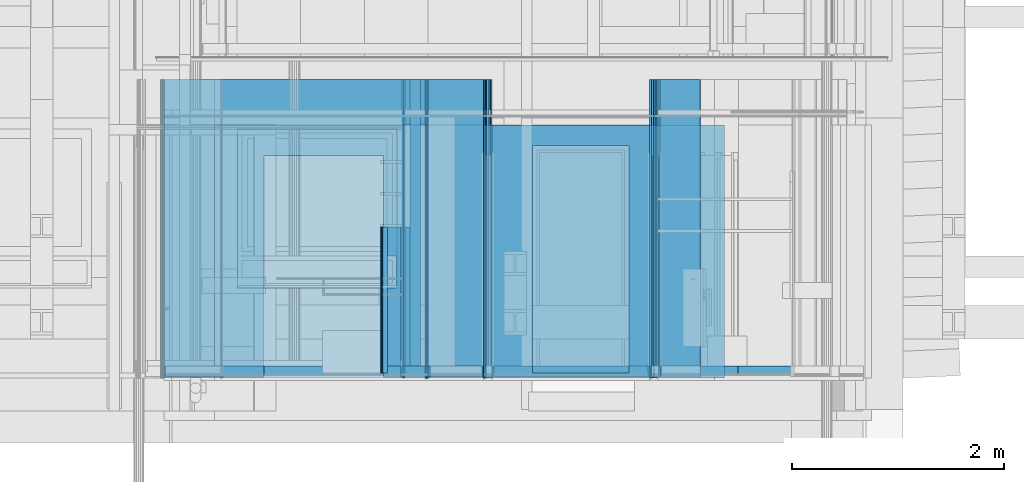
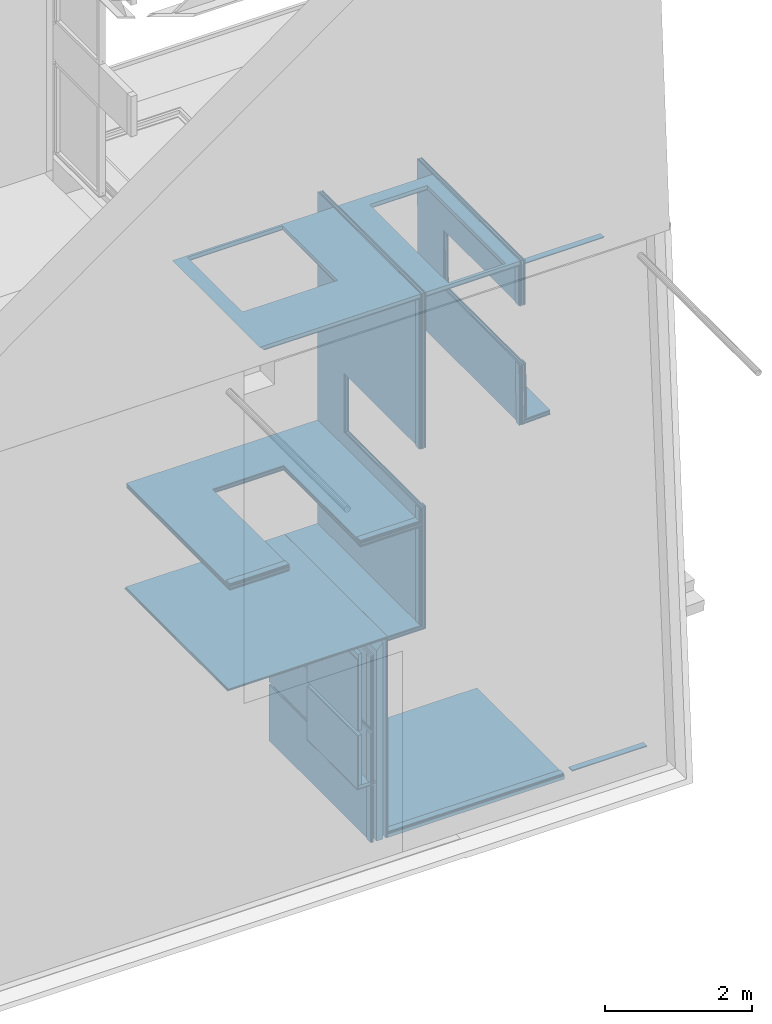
# One storey, part 128 of 583: 49 building element parts, 6 openings, 15 elements without a shape of their own.
"""IFC2X3 building model written with IfcOpenShell, lengths in metres."""

from ifc_helpers import new_model, entity, si_unit, converted_unit, derived_unit, money_unit, direction, frame, frame_2d, origin_with_axes, place, context, subcontext, project, spatial, polyline, rectangle, outline, composite_profile, extrude, material, type_object, element, aggregate, save


model = new_model("IFC2X3")

# Units and contexts
model_context = context("Model", 3, precision=1e-05, world=origin_with_axes(), true_north=direction((0.0, 1.0)))
body_context = subcontext(model_context, "Body", "Model", "MODEL_VIEW", scale=1.0)
ifc_project = project(units=[si_unit("LENGTHUNIT", "METRE"), si_unit("AREAUNIT", "SQUARE_METRE"), si_unit("VOLUMEUNIT", "CUBIC_METRE"), si_unit("ABSORBEDDOSEUNIT", "GRAY"), si_unit("AMOUNTOFSUBSTANCEUNIT", "MOLE"), si_unit("DOSEEQUIVALENTUNIT", "SIEVERT"), si_unit("ELECTRICCAPACITANCEUNIT", "FARAD"), si_unit("ELECTRICCHARGEUNIT", "COULOMB"), si_unit("ELECTRICCONDUCTANCEUNIT", "SIEMENS"), si_unit("ELECTRICCURRENTUNIT", "AMPERE"), si_unit("ELECTRICRESISTANCEUNIT", "OHM"), si_unit("ELECTRICVOLTAGEUNIT", "VOLT"), si_unit("ENERGYUNIT", "JOULE"), si_unit("FORCEUNIT", "NEWTON"), si_unit("FREQUENCYUNIT", "HERTZ"), si_unit("ILLUMINANCEUNIT", "LUX"), si_unit("INDUCTANCEUNIT", "HENRY"), si_unit("LUMINOUSFLUXUNIT", "LUMEN"), si_unit("LUMINOUSINTENSITYUNIT", "CANDELA"), si_unit("MAGNETICFLUXDENSITYUNIT", "TESLA"), si_unit("MAGNETICFLUXUNIT", "WEBER"), si_unit("MASSUNIT", "GRAM"), converted_unit("PLANEANGLEUNIT", "degree", entity("IfcReal", 0.0174532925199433), si_unit("PLANEANGLEUNIT", "RADIAN"), dimensions=[0, 0, 0, 0, 0, 0, 0]), si_unit("POWERUNIT", "WATT"), si_unit("PRESSUREUNIT", "PASCAL"), si_unit("RADIOACTIVITYUNIT", "BECQUEREL"), si_unit("SOLIDANGLEUNIT", "STERADIAN"), si_unit("THERMODYNAMICTEMPERATUREUNIT", "KELVIN"), si_unit("TIMEUNIT", "SECOND"), derived_unit("ACCELERATIONUNIT", [(si_unit("LENGTHUNIT", "METRE"), 1), (si_unit("TIMEUNIT", "SECOND"), -2)]), derived_unit("ANGULARVELOCITYUNIT", [(converted_unit("PLANEANGLEUNIT", "degree", entity("IfcReal", 0.0174532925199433), si_unit("PLANEANGLEUNIT", "RADIAN"), dimensions=[0, 0, 0, 0, 0, 0, 0]), 1), (si_unit("TIMEUNIT", "SECOND"), -1)]), derived_unit("CURVATUREUNIT", [(converted_unit("PLANEANGLEUNIT", "degree", entity("IfcReal", 0.0174532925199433), si_unit("PLANEANGLEUNIT", "RADIAN"), dimensions=[0, 0, 0, 0, 0, 0, 0]), 1), (si_unit("LENGTHUNIT", "METRE"), -1)]), derived_unit("DYNAMICVISCOSITYUNIT", [(si_unit("PRESSUREUNIT", "PASCAL"), 1), (si_unit("TIMEUNIT", "SECOND"), 1)]), derived_unit("HEATFLUXDENSITYUNIT", [(si_unit("POWERUNIT", "WATT"), 1), (si_unit("LENGTHUNIT", "METRE"), -2)]), derived_unit("HEATINGVALUEUNIT", [(si_unit("ENERGYUNIT", "JOULE"), 1), (si_unit("MASSUNIT", "GRAM"), -1)]), derived_unit("INTEGERCOUNTRATEUNIT", [(si_unit("TIMEUNIT", "SECOND"), -1)]), derived_unit("IONCONCENTRATIONUNIT", [(si_unit("MASSUNIT", "GRAM"), 1), (si_unit("VOLUMEUNIT", "CUBIC_METRE"), -1)]), derived_unit("ISOTHERMALMOISTURECAPACITYUNIT", [(si_unit("VOLUMEUNIT", "CUBIC_METRE"), 1), (si_unit("MASSUNIT", "GRAM"), -1)]), derived_unit("KINEMATICVISCOSITYUNIT", [(si_unit("AREAUNIT", "SQUARE_METRE"), 1), (si_unit("TIMEUNIT", "SECOND"), -1)]), derived_unit("LINEARFORCEUNIT", [(si_unit("FORCEUNIT", "NEWTON"), 1), (si_unit("LENGTHUNIT", "METRE"), -1)]), derived_unit("LINEARMOMENTUNIT", [(si_unit("FORCEUNIT", "NEWTON"), 1), (si_unit("LENGTHUNIT", "METRE"), -1)]), derived_unit("LINEARSTIFFNESSUNIT", [(si_unit("FORCEUNIT", "NEWTON"), 1), (si_unit("LENGTHUNIT", "METRE"), -1)]), derived_unit("LINEARVELOCITYUNIT", [(si_unit("LENGTHUNIT", "METRE"), 1), (si_unit("TIMEUNIT", "SECOND"), -1)]), derived_unit("LUMINOUSINTENSITYDISTRIBUTIONUNIT", [(si_unit("LUMINOUSINTENSITYUNIT", "CANDELA"), 1), (si_unit("LUMINOUSFLUXUNIT", "LUMEN"), -1)]), derived_unit("MASSDENSITYUNIT", [(si_unit("MASSUNIT", "GRAM"), 1), (si_unit("VOLUMEUNIT", "CUBIC_METRE"), -1)]), derived_unit("MASSFLOWRATEUNIT", [(si_unit("MASSUNIT", "GRAM"), 1), (si_unit("TIMEUNIT", "SECOND"), -1)]), derived_unit("MASSPERLENGTHUNIT", [(si_unit("MASSUNIT", "GRAM"), 1), (si_unit("LENGTHUNIT", "METRE"), -1)]), derived_unit("MODULUSOFELASTICITYUNIT", [(si_unit("FORCEUNIT", "NEWTON"), 1), (si_unit("AREAUNIT", "SQUARE_METRE"), -1)]), derived_unit("MODULUSOFLINEARSUBGRADEREACTIONUNIT", [(si_unit("FORCEUNIT", "NEWTON"), 1), (si_unit("LENGTHUNIT", "METRE"), -2)]), derived_unit("MODULUSOFROTATIONALSUBGRADEREACTIONUNIT", [(si_unit("FORCEUNIT", "NEWTON"), 1), (si_unit("LENGTHUNIT", "METRE"), 1)]), derived_unit("MODULUSOFSUBGRADEREACTIONUNIT", [(si_unit("FORCEUNIT", "NEWTON"), 1), (si_unit("VOLUMEUNIT", "CUBIC_METRE"), -1)]), derived_unit("MOISTUREDIFFUSIVITYUNIT", [(si_unit("VOLUMEUNIT", "CUBIC_METRE"), 1), (si_unit("TIMEUNIT", "SECOND"), -1)]), derived_unit("MOLECULARWEIGHTUNIT", [(si_unit("MASSUNIT", "GRAM"), 1), (si_unit("AMOUNTOFSUBSTANCEUNIT", "MOLE"), -1)]), derived_unit("PLANARFORCEUNIT", [(si_unit("FORCEUNIT", "NEWTON"), 1), (si_unit("LENGTHUNIT", "METRE"), -2)]), derived_unit("ROTATIONALFREQUENCYUNIT", [(si_unit("TIMEUNIT", "SECOND"), -1)]), derived_unit("ROTATIONALMASSUNIT", [(si_unit("MASSUNIT", "GRAM"), 1), (si_unit("LENGTHUNIT", "METRE"), 2)]), derived_unit("ROTATIONALSTIFFNESSUNIT", [(si_unit("FORCEUNIT", "NEWTON"), 1), (si_unit("LENGTHUNIT", "METRE"), 1), (converted_unit("PLANEANGLEUNIT", "degree", entity("IfcReal", 0.0174532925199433), si_unit("PLANEANGLEUNIT", "RADIAN"), dimensions=[0, 0, 0, 0, 0, 0, 0]), -1)]), derived_unit("SECTIONAREAINTEGRALUNIT", [(si_unit("LENGTHUNIT", "METRE"), 5)]), derived_unit("SECTIONMODULUSUNIT", [(si_unit("LENGTHUNIT", "METRE"), 3)]), derived_unit("SHEARMODULUSUNIT", [(si_unit("FORCEUNIT", "NEWTON"), 1), (si_unit("AREAUNIT", "SQUARE_METRE"), -1)]), derived_unit("SOUNDPOWERUNIT", [(si_unit("ENERGYUNIT", "JOULE"), 1), (si_unit("TIMEUNIT", "SECOND"), -1)]), derived_unit("SPECIFICHEATCAPACITYUNIT", [(si_unit("FORCEUNIT", "NEWTON"), 1), (si_unit("MASSUNIT", "GRAM"), -1), (si_unit("THERMODYNAMICTEMPERATUREUNIT", "KELVIN"), -1)]), derived_unit("TEMPERATUREGRADIENTUNIT", [(si_unit("THERMODYNAMICTEMPERATUREUNIT", "KELVIN"), 1), (si_unit("LENGTHUNIT", "METRE"), -1)]), derived_unit("THERMALADMITTANCEUNIT", [(si_unit("POWERUNIT", "WATT"), 1), (si_unit("AREAUNIT", "SQUARE_METRE"), -1), (si_unit("THERMODYNAMICTEMPERATUREUNIT", "KELVIN"), -1)]), derived_unit("THERMALCONDUCTANCEUNIT", [(si_unit("POWERUNIT", "WATT"), 1), (si_unit("LENGTHUNIT", "METRE"), -1), (si_unit("THERMODYNAMICTEMPERATUREUNIT", "KELVIN"), -1)]), derived_unit("THERMALEXPANSIONCOEFFICIENTUNIT", [(si_unit("THERMODYNAMICTEMPERATUREUNIT", "KELVIN"), -1)]), derived_unit("THERMALRESISTANCEUNIT", [(si_unit("AREAUNIT", "SQUARE_METRE"), 1), (si_unit("POWERUNIT", "WATT"), -1)]), derived_unit("THERMALTRANSMITTANCEUNIT", [(si_unit("POWERUNIT", "WATT"), 1), (si_unit("AREAUNIT", "SQUARE_METRE"), -1), (si_unit("THERMODYNAMICTEMPERATUREUNIT", "KELVIN"), -1)]), derived_unit("TORQUEUNIT", [(si_unit("FORCEUNIT", "NEWTON"), 1), (si_unit("LENGTHUNIT", "METRE"), 1)]), derived_unit("VAPORPERMEABILITYUNIT", [(si_unit("MASSUNIT", "GRAM"), 1), (si_unit("TIMEUNIT", "SECOND"), -1)]), derived_unit("VOLUMETRICFLOWRATEUNIT", [(si_unit("VOLUMEUNIT", "CUBIC_METRE"), 1), (si_unit("TIMEUNIT", "SECOND"), -1)]), derived_unit("WARPINGCONSTANTUNIT", [(si_unit("LENGTHUNIT", "METRE"), 6)]), derived_unit("WARPINGMOMENTUNIT", [(si_unit("FORCEUNIT", "NEWTON"), 1), (si_unit("LENGTHUNIT", "METRE"), 2)]), money_unit("GBP")], contexts=[model_context])

# Site, building, storey
site_placement = place(None, origin_with_axes())
site = spatial("IfcSite", under=ifc_project, at=site_placement, Name="Site", CompositionType="ELEMENT")
building_placement = place(site_placement, origin_with_axes())
building = spatial("IfcBuilding", under=site, at=building_placement, Name="Building01", CompositionType="ELEMENT")
storey_placement = place(building_placement, frame((0.0, 0.0, 20.78), z_axis=(0.0, 0.0, 1.0), x_axis=(1.0, 0.0, 0.0)))
storey = spatial("IfcBuildingStorey", under=building, at=storey_placement, Name="RL", CompositionType="ELEMENT", Elevation=20.78)

# Wall, building element parts
wall_type_1 = type_object("IfcWallType", Name="SHE_A-Walls_Type01a_Partywall_250mm_twin", PredefinedType="NOTDEFINED")
wall_1_placement = place(storey_placement, frame((16.968647, 0.148, -17.324475), z_axis=(0.0, 1.0, 0.0), x_axis=(-1.0, 0.0, 0.0)))
wall_1 = element("IfcWall", 1, at=wall_1_placement, inside=storey, type_object=wall_type_1, Name="1A", ObjectType="SHE_A-Walls_Type01a_Partywall_250mm_twin")
ifc_material_1 = material(Name="A_BSUK_WallInternal_Finishes_Plasterboard")
placement_1 = place(wall_1_placement, origin_with_axes())
building_element_part_1 = element("IfcBuildingElementPart", 2, at=placement_1, material=ifc_material_1, Name="3", context=body_context, shape_type="SweptSolid", body=[
    extrude(outline(polyline([(2.333647, 0.175), (-0.175, 0.175), (-0.16, 0.16), (2.333647, 0.16), (2.333647, 0.175)])), origin_with_axes(), (0.0, 0.0, 1.0), 2.812),
])
building_element_part_2 = element("IfcBuildingElementPart", 3, at=placement_1, material=ifc_material_1, Name="4", context=body_context, shape_type="SweptSolid", body=[
    extrude(outline(polyline([(2.348647, 0.16), (-0.16, 0.16), (-0.145, 0.145), (2.348647, 0.145), (2.348647, 0.16)])), origin_with_axes(), (0.0, 0.0, 1.0), 2.812),
])
aggregate(wall_1, [building_element_part_1, building_element_part_2])

wall_2_placement = place(storey_placement, frame((16.968647, 0.148, -20.499146), z_axis=(0.0, 1.0, 0.0), x_axis=(0.0, 0.0, 1.0)))
wall_2 = element("IfcWall", 4, at=wall_2_placement, inside=storey, type_object=wall_type_1, Name="1A", ObjectType="SHE_A-Walls_Type01a_Partywall_250mm_twin")
ifc_material_2 = material(Name="A_BSUK_Insulation")
placement_2 = place(wall_2_placement, origin_with_axes())
building_element_part_3 = element("IfcBuildingElementPart", 5, at=placement_2, material=ifc_material_2, Name="1", context=body_context, shape_type="SweptSolid", body=[
    extrude(outline(polyline([(3.274671, 0.1), (4e-06, 0.1), (0.0, 0.0), (3.174671, 0.0), (3.274671, 0.1)])), origin_with_axes(), (0.0, 0.0, 1.0), 2.812),
])
ifc_material_3 = material(Name="A_BSUK_Walls_Timber")
building_element_part_4 = element("IfcBuildingElementPart", 6, at=placement_2, material=ifc_material_3, Name="2", context=body_context, shape_type="SweptSolid", body=[
    extrude(rectangle(XDim=3.182664, YDim=0.015, at=frame_2d((1.663339, 0.1825), x_axis=(-1.0, 0.0))), frame((0.0, 0.0, 0.015), z_axis=(0.0, 0.0, 1.0), x_axis=(1.0, 0.0, 0.0)), (0.0, 0.0, 1.0), 0.1),
])
building_element_part_5 = element("IfcBuildingElementPart", 7, at=placement_2, material=ifc_material_1, Name="3", context=body_context, shape_type="SweptSolid", body=[
    extrude(outline(polyline([(3.349671, 0.175), (7e-06, 0.175), (6e-06, 0.16), (3.334671, 0.16), (3.349671, 0.175)])), origin_with_axes(), (0.0, 0.0, 1.0), 2.812),
])
building_element_part_6 = element("IfcBuildingElementPart", 8, at=placement_2, material=ifc_material_1, Name="4", context=body_context, shape_type="SweptSolid", body=[
    extrude(outline(polyline([(3.334671, 0.16), (6e-06, 0.16), (5e-06, 0.145), (3.319671, 0.145), (3.334671, 0.16)])), origin_with_axes(), (0.0, 0.0, 1.0), 2.812),
])
building_element_part_7 = element("IfcBuildingElementPart", 9, at=placement_2, material=ifc_material_1, Name="5", context=body_context, shape_type="SweptSolid", body=[
    extrude(composite_profile([outline(polyline([(1.871671, -0.06), (3.114671, -0.06), (3.129671, -0.045), (1.871671, -0.045), (1.871671, -0.06)])), outline(polyline([(0.934671, -0.045), (-2e-06, -0.045), (-2e-06, -0.06), (0.934671, -0.06), (0.934671, -0.045)])), rectangle(XDim=0.861999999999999, YDim=0.015, at=frame_2d((1.415671, -0.0525), x_axis=(1.0, 0.0)))]), origin_with_axes(), (0.0, 0.0, 1.0), 2.812),
])
building_element_part_8 = element("IfcBuildingElementPart", 10, at=placement_2, material=ifc_material_1, Name="6", context=body_context, shape_type="SweptSolid", body=[
    extrude(composite_profile([outline(polyline([(1.899671, -0.075), (3.099671, -0.075), (3.114671, -0.06), (1.884671, -0.06), (1.899671, -0.075)])), outline(polyline([(0.934671, -0.06), (-2e-06, -0.06), (-3e-06, -0.075), (0.934671, -0.075), (0.934671, -0.06)])), outline(polyline([(0.984671, -0.075), (1.819671, -0.075), (1.834671, -0.06), (0.984671, -0.06), (0.984671, -0.075)]))]), origin_with_axes(), (0.0, 0.0, 1.0), 2.812),
])
building_element_part_9 = element("IfcBuildingElementPart", 11, at=placement_2, material=ifc_material_3, Name="7", context=body_context, shape_type="SweptSolid", body=[
    extrude(composite_profile([outline(polyline([(1.914671, -0.09), (3.084671, -0.09), (3.099671, -0.075), (1.899671, -0.075), (1.914671, -0.09)])), outline(polyline([(0.934671, -0.075), (-3e-06, -0.075), (-3e-06, -0.09), (0.934671, -0.09), (0.934671, -0.075)])), outline(polyline([(0.984671, -0.09), (1.804671, -0.09), (1.819671, -0.075), (0.984671, -0.075), (0.984671, -0.09)]))]), frame((0.0, 0.0, 0.015), z_axis=(0.0, 0.0, 1.0), x_axis=(1.0, 0.0, 0.0)), (0.0, 0.0, 1.0), 0.1),
])
aggregate(wall_2, [building_element_part_3, building_element_part_4, building_element_part_5, building_element_part_6, building_element_part_7, building_element_part_8, building_element_part_9])

wall_type_2 = type_object("IfcWallType", Name="SHE_A-Walls_Type05c_PreWallShell_65mm", PredefinedType="NOTDEFINED")
wall_3_placement = place(storey_placement, frame((16.75865, 0.198, -18.599475), z_axis=(0.0, 1.0, 0.0), x_axis=(0.0, 0.0, 1.0)))
wall_3 = element("IfcWall", 12, at=wall_3_placement, inside=storey, type_object=wall_type_2, Name="5C", ObjectType="SHE_A-Walls_Type05c_PreWallShell_65mm")
ifc_material_4 = material(Name="A_BSUK_OpeningsClearance")
placement_3 = place(wall_3_placement, origin_with_axes())
building_element_part_10 = element("IfcBuildingElementPart", 13, at=placement_3, material=ifc_material_4, Name="1", context=body_context, shape_type="SweptSolid", body=[
    extrude(rectangle(XDim=1.275, YDim=0.05, at=frame_2d((0.6375, -0.025), x_axis=(-1.0, 0.0))), origin_with_axes(), (0.0, 0.0, 1.0), 1.375),
])
building_element_part_11 = element("IfcBuildingElementPart", 14, at=placement_3, material=ifc_material_3, Name="2", context=body_context, shape_type="SweptSolid", body=[
    extrude(rectangle(XDim=1.185, YDim=0.015, at=frame_2d((0.5925, -0.0575), x_axis=(-1.0, 0.0))), origin_with_axes(), (0.0, 0.0, 1.0), 1.375),
])
aggregate(wall_3, [building_element_part_10, building_element_part_11])

wall_4_placement = place(storey_placement, frame((16.75865, 0.198, -19.514475), z_axis=(0.0, 1.0, 0.0), x_axis=(0.0, 0.0, 1.0)))
wall_4 = element("IfcWall", 15, at=wall_4_placement, inside=storey, type_object=wall_type_2, Name="5C", ObjectType="SHE_A-Walls_Type05c_PreWallShell_65mm")
placement_4 = place(wall_4_placement, origin_with_axes())
building_element_part_12 = element("IfcBuildingElementPart", 16, at=placement_4, material=ifc_material_4, Name="1", context=body_context, shape_type="SweptSolid", body=[
    extrude(rectangle(XDim=0.835001, YDim=0.05, at=frame_2d((0.4175, -0.025), x_axis=(-1.0, 0.0))), origin_with_axes(), (0.0, 0.0, 1.0), 1.375),
])
building_element_part_13 = element("IfcBuildingElementPart", 17, at=placement_4, material=ifc_material_3, Name="2", context=body_context, shape_type="SweptSolid", body=[
    extrude(rectangle(XDim=0.885001, YDim=0.015, at=frame_2d((0.3925, -0.0575), x_axis=(-1.0, 0.0))), origin_with_axes(), (0.0, 0.0, 1.0), 1.375),
])
aggregate(wall_4, [building_element_part_12, building_element_part_13])

# Wall, opening, building element parts
wall_5_placement = place(storey_placement, frame((16.968647, 0.198, -19.514475), z_axis=(0.0, 1.0, 0.0), x_axis=(-1.0, 0.0, 0.0)))
wall_5 = element("IfcWall", 18, at=wall_5_placement, inside=storey, type_object=wall_type_2, Name="5C", ObjectType="SHE_A-Walls_Type05c_PreWallShell_65mm")
opening_1_placement = place(wall_5_placement, frame((0.125857, -0.985324, 0.8), z_axis=(0.0, 0.0, 1.0), x_axis=(1.0, 0.0, 0.0)))
element("IfcOpeningElement", 19, at=opening_1_placement, cuts=wall_5, Name="Opening", ObjectType="Opening", context=body_context, shape_type="SweptSolid", body=[
    extrude(rectangle(XDim=0.3, YDim=1.5, at=frame_2d((-0.75, 0.15), x_axis=(0.0, -1.0))), frame((0.0, 0.0, 0.0), z_axis=(0.0, 1.0, 0.0), x_axis=(-1.0, 0.0, 0.0)), (0.0, 0.0, 1.0), 2.580878),
])
placement_5 = place(wall_5_placement, origin_with_axes())
building_element_part_14 = element("IfcBuildingElementPart", 20, at=placement_5, material=ifc_material_4, Name="1", context=body_context, shape_type="SweptSolid", body=[
    extrude(rectangle(XDim=0.259998, YDim=0.05, at=frame_2d((0.129999, -0.025), x_axis=(-1.0, 0.0))), origin_with_axes(), (0.0, 0.0, 1.0), 1.375),
])
building_element_part_15 = element("IfcBuildingElementPart", 21, at=placement_5, material=ifc_material_3, Name="2", context=body_context, shape_type="SweptSolid", body=[
    extrude(rectangle(XDim=0.184998, YDim=0.015, at=frame_2d((0.182499, -0.0575), x_axis=(-1.0, 0.0))), origin_with_axes(), (0.0, 0.0, 1.0), 1.375),
])
aggregate(wall_5, [building_element_part_14, building_element_part_15])

# Wall, building element parts
wall_type_3 = type_object("IfcWallType", Name="SHE_A-Walls_Type05b_Partition_80mm", PredefinedType="NOTDEFINED")
wall_6_placement = place(storey_placement, frame((17.143647, 0.148, -17.176475), z_axis=(0.0, 1.0, 0.0), x_axis=(1.0, 0.0, 0.0)))
wall_6 = element("IfcWall", 22, at=wall_6_placement, inside=storey, type_object=wall_type_3, Name="5B", ObjectType="SHE_A-Walls_Type05b_Partition_80mm")
placement_6 = place(wall_6_placement, origin_with_axes())
building_element_part_16 = element("IfcBuildingElementPart", 23, at=placement_6, material=ifc_material_2, Name="1", context=body_context, shape_type="SweptSolid", body=[
    extrude(outline(polyline([(0.571924, 0.025), (0.0, 0.025), (0.0, 0.0), (0.546924, 0.0), (0.571924, 0.025)])), origin_with_axes(), (0.0, 0.0, 1.0), 2.812),
])
building_element_part_17 = element("IfcBuildingElementPart", 24, at=placement_6, material=ifc_material_1, Name="3", context=body_context, shape_type="SweptSolid", body=[
    extrude(outline(polyline([(0.599924, 0.053), (0.0, 0.053), (0.0, 0.038), (0.584924, 0.038), (0.599924, 0.053)])), origin_with_axes(), (0.0, 0.0, 1.0), 2.812),
])
building_element_part_18 = element("IfcBuildingElementPart", 25, at=placement_6, material=ifc_material_1, Name="4", context=body_context, shape_type="SweptSolid", body=[
    extrude(outline(polyline([(0.534924, -0.012), (0.0, -0.012), (0.0, -0.027), (0.519924, -0.027), (0.534924, -0.012)])), origin_with_axes(), (0.0, 0.0, 1.0), 2.812),
])
aggregate(wall_6, [building_element_part_16, building_element_part_17, building_element_part_18])

# Wall, opening, building element parts
wall_7_placement = place(storey_placement, frame((17.690571, 0.148, -17.176475), z_axis=(0.0, 1.0, 0.0), x_axis=(0.0, 0.0, 1.0)))
wall_7 = element("IfcWall", 26, at=wall_7_placement, inside=storey, type_object=wall_type_3, Name="5B", ObjectType="SHE_A-Walls_Type05b_Partition_80mm")
opening_2_placement = place(wall_7_placement, frame((1.975, -0.027, 0.0), z_axis=(0.0, 0.0, 1.0), x_axis=(1.0, 0.0, 0.0)))
element("IfcOpeningElement", 27, at=opening_2_placement, cuts=wall_7, Name="Opening", ObjectType="Opening", context=body_context, shape_type="SweptSolid", body=[
    extrude(rectangle(XDim=2.1, YDim=0.984, at=frame_2d((0.492, 1.05), x_axis=(0.0, -1.0))), frame((0.0, 6.869403, 0.0), z_axis=(0.0, -1.0, 0.0), x_axis=(1.0, 0.0, 0.0)), (0.0, 0.0, 1.0), 13.738807),
])
placement_7 = place(wall_7_placement, origin_with_axes())
building_element_part_19 = element("IfcBuildingElementPart", 28, at=placement_7, material=ifc_material_2, Name="1", context=body_context, shape_type="SweptSolid", body=[
    extrude(outline(polyline([(5.55074, 0.025), (-0.025, 0.025), (0.0, 0.0), (5.55074, 0.0), (5.55074, 0.025)])), origin_with_axes(), (0.0, 0.0, 1.0), 2.812),
])
building_element_part_20 = element("IfcBuildingElementPart", 29, at=placement_7, material=ifc_material_3, Name="2", context=body_context, shape_type="SweptSolid", body=[
    extrude(outline(polyline([(5.47874, 0.068), (-0.068, 0.068), (-0.053, 0.053), (5.47874, 0.053), (5.47874, 0.068)])), frame((0.0, 0.0, 0.015), z_axis=(0.0, 0.0, 1.0), x_axis=(1.0, 0.0, 0.0)), (0.0, 0.0, 1.0), 0.1),
])
building_element_part_21 = element("IfcBuildingElementPart", 30, at=placement_7, material=ifc_material_1, Name="3", context=body_context, shape_type="SweptSolid", body=[
    extrude(outline(polyline([(5.55074, 0.053), (-0.053, 0.053), (-0.038, 0.038), (5.55074, 0.038), (5.55074, 0.053)])), origin_with_axes(), (0.0, 0.0, 1.0), 2.812),
])
building_element_part_22 = element("IfcBuildingElementPart", 31, at=placement_7, material=ifc_material_1, Name="4", context=body_context, shape_type="SweptSolid", body=[
    extrude(outline(polyline([(1.685731, -0.012), (0.012, -0.012), (0.027, -0.027), (1.685731, -0.027), (1.685731, -0.012)])), origin_with_axes(), (0.0, 0.0, 1.0), 2.812),
])
building_element_part_23 = element("IfcBuildingElementPart", 32, at=placement_7, material=ifc_material_3, Name="5", context=body_context, shape_type="SweptSolid", body=[
    extrude(outline(polyline([(1.670731, -0.027), (0.027, -0.027), (0.042, -0.042), (1.670731, -0.042), (1.670731, -0.027)])), frame((0.0, 0.0, 0.015), z_axis=(0.0, 0.0, 1.0), x_axis=(1.0, 0.0, 0.0)), (0.0, 0.0, 1.0), 0.1),
])
building_element_part_24 = element("IfcBuildingElementPart", 33, at=placement_7, material=ifc_material_3, Name="6", context=body_context, shape_type="SweptSolid", body=[
    extrude(rectangle(XDim=3.728009, YDim=0.015, at=frame_2d((3.614736, -0.0345), x_axis=(-1.0, 0.0))), frame((0.0, 0.0, 0.015), z_axis=(0.0, 0.0, 1.0), x_axis=(1.0, 0.0, 0.0)), (0.0, 0.0, 1.0), 0.1),
])
building_element_part_25 = element("IfcBuildingElementPart", 34, at=placement_7, material=ifc_material_1, Name="7", context=body_context, shape_type="SweptSolid", body=[
    extrude(rectangle(XDim=3.815009, YDim=0.015, at=frame_2d((3.643236, -0.0195), x_axis=(-1.0, 0.0))), origin_with_axes(), (0.0, 0.0, 1.0), 2.812),
])
aggregate(wall_7, [building_element_part_19, building_element_part_20, building_element_part_21, building_element_part_22, building_element_part_23, building_element_part_24, building_element_part_25])

# Wall, building element parts
wall_8_placement = place(storey_placement, frame((19.273593, 0.148, -14.311221), z_axis=(0.0, 1.0, 0.0), x_axis=(0.99943358, 0.0, 0.03365301)))
wall_8 = element("IfcWall", 35, at=wall_8_placement, inside=storey, type_object=wall_type_3, Name="5B", ObjectType="SHE_A-Walls_Type05b_Partition_80mm")
placement_8 = place(wall_8_placement, origin_with_axes())
building_element_part_26 = element("IfcBuildingElementPart", 36, at=placement_8, material=ifc_material_2, Name="1", context=body_context, shape_type="SweptSolid", body=[
    extrude(outline(polyline([(0.430574, 0.025), (-0.000674, 0.025), (0.0, 0.0), (0.430491, 0.0), (0.430574, 0.025)])), origin_with_axes(), (0.0, 0.0, 1.0), 2.812),
])
building_element_part_27 = element("IfcBuildingElementPart", 37, at=placement_8, material=ifc_material_1, Name="3", context=body_context, shape_type="SweptSolid", body=[
    extrude(outline(polyline([(0.430666, 0.053), (-0.029439, 0.053), (-0.014029, 0.038), (0.430617, 0.038), (0.430666, 0.053)])), origin_with_axes(), (0.0, 0.0, 1.0), 2.812),
])
building_element_part_28 = element("IfcBuildingElementPart", 38, at=placement_8, material=ifc_material_1, Name="4", context=body_context, shape_type="SweptSolid", body=[
    extrude(outline(polyline([(0.430451, -0.012), (0.037337, -0.012), (0.037741, -0.027), (0.430401, -0.027), (0.430451, -0.012)])), origin_with_axes(), (0.0, 0.0, 1.0), 2.812),
])
aggregate(wall_8, [building_element_part_26, building_element_part_27, building_element_part_28])

# Wall, opening, building element parts
wall_9_placement = place(storey_placement, frame((19.280573, 0.148, -11.625735), z_axis=(0.0, 1.0, 0.0), x_axis=(0.00671026, 0.0, -0.99997749)))
wall_9 = element("IfcWall", 39, at=wall_9_placement, inside=storey, type_object=wall_type_3, Name="5B", ObjectType="SHE_A-Walls_Type05b_Partition_80mm")
opening_3_placement = place(wall_9_placement, frame((0.75551, 0.092796, 0.0), z_axis=(0.0, 0.0, 1.0), x_axis=(1.0, 0.0, 0.0)))
element("IfcOpeningElement", 40, at=opening_3_placement, cuts=wall_9, Name="Opening", ObjectType="Opening", context=body_context, shape_type="SweptSolid", body=[
    extrude(rectangle(XDim=0.984, YDim=2.1, at=frame_2d((-0.491994, 1.05), x_axis=(1.0, 0.0))), frame((-0.010711, -4.297629, 0.0), z_axis=(0.00249226, 0.99999689, 0.0), x_axis=(-0.99999689, 0.00249226, 0.0)), (0.0, 0.0, 1.0), 8.600189),
])
placement_9 = place(wall_9_placement, origin_with_axes())
building_element_part_29 = element("IfcBuildingElementPart", 41, at=placement_9, material=ifc_material_2, Name="1", context=body_context, shape_type="SweptSolid", body=[
    extrude(outline(polyline([(2.685378, 0.025), (-0.000168, 0.025), (0.0, 0.0), (2.684705, 0.0), (2.685378, 0.025)])), origin_with_axes(), (0.0, 0.0, 1.0), 2.812),
])
building_element_part_30 = element("IfcBuildingElementPart", 42, at=placement_9, material=ifc_material_3, Name="2", context=body_context, shape_type="SweptSolid", body=[
    extrude(outline(polyline([(2.754562, 0.068), (0.071545, 0.068), (0.071646, 0.053), (2.739153, 0.053), (2.754562, 0.068)])), frame((0.0, 0.0, 0.015), z_axis=(0.0, 0.0, 1.0), x_axis=(1.0, 0.0, 0.0)), (0.0, 0.0, 1.0), 0.1),
])
building_element_part_31 = element("IfcBuildingElementPart", 43, at=placement_9, material=ifc_material_1, Name="3", context=body_context, shape_type="SweptSolid", body=[
    extrude(outline(polyline([(2.739153, 0.053), (-0.000356, 0.053), (-0.000255, 0.038), (2.723743, 0.038), (2.739153, 0.053)])), origin_with_axes(), (0.0, 0.0, 1.0), 2.812),
])
building_element_part_32 = element("IfcBuildingElementPart", 44, at=placement_9, material=ifc_material_1, Name="4", context=body_context, shape_type="SweptSolid", body=[
    extrude(outline(polyline([(2.657371, -0.012), (8.1e-05, -0.012), (0.000181, -0.027), (2.656967, -0.027), (2.657371, -0.012)])), origin_with_axes(), (0.0, 0.0, 1.0), 2.812),
])
building_element_part_33 = element("IfcBuildingElementPart", 45, at=placement_9, material=ifc_material_3, Name="5", context=body_context, shape_type="SweptSolid", body=[
    extrude(outline(polyline([(2.656967, -0.027), (0.072183, -0.027), (0.072283, -0.042), (2.640715, -0.042), (2.656967, -0.027)])), frame((0.0, 0.0, 0.015), z_axis=(0.0, 0.0, 1.0), x_axis=(1.0, 0.0, 0.0)), (0.0, 0.0, 1.0), 0.1),
])
aggregate(wall_9, [building_element_part_29, building_element_part_30, building_element_part_31, building_element_part_32, building_element_part_33])

wall_10_placement = place(storey_placement, frame((17.690571, 0.148, -15.478744), z_axis=(0.0, 1.0, 0.0), x_axis=(-1.0, 0.0, 0.0)))
wall_10 = element("IfcWall", 46, at=wall_10_placement, inside=storey, type_object=wall_type_3, Name="5B", ObjectType="SHE_A-Walls_Type05b_Partition_80mm")
opening_4_placement = place(wall_10_placement, frame((0.971786, 0.052957, 0.0), z_axis=(0.0, 0.0, 1.0), x_axis=(1.0, 0.0, 0.0)))
element("IfcOpeningElement", 47, at=opening_4_placement, cuts=wall_10, Name="Opening", ObjectType="Opening", context=body_context, shape_type="SweptSolid", body=[
    extrude(rectangle(XDim=2.1, YDim=1.124, at=frame_2d((-0.562, 1.05), x_axis=(0.0, -1.0))), frame((-0.000171, -4.556033, 0.0), z_axis=(3.756e-05, 1.0, 0.0), x_axis=(-1.0, 3.756e-05, 0.0)), (0.0, 0.0, 1.0), 9.112151),
])
placement_10 = place(wall_10_placement, origin_with_axes())
building_element_part_34 = element("IfcBuildingElementPart", 48, at=placement_10, material=ifc_material_2, Name="1", context=body_context, shape_type="SweptSolid", body=[
    extrude(rectangle(XDim=3.040571, YDim=0.025, at=frame_2d((1.520286, 0.0125), x_axis=(-1.0, 0.0))), origin_with_axes(), (0.0, 0.0, 1.0), 2.812),
])
building_element_part_35 = element("IfcBuildingElementPart", 49, at=placement_10, material=ifc_material_3, Name="2", context=body_context, shape_type="SweptSolid", body=[
    extrude(rectangle(XDim=2.983571, YDim=0.015, at=frame_2d((1.533786, 0.0605), x_axis=(-1.0, 0.0))), frame((0.0, 0.0, 0.015), z_axis=(0.0, 0.0, 1.0), x_axis=(1.0, 0.0, 0.0)), (0.0, 0.0, 1.0), 0.1),
])
building_element_part_36 = element("IfcBuildingElementPart", 50, at=placement_10, material=ifc_material_1, Name="3", context=body_context, shape_type="SweptSolid", body=[
    extrude(rectangle(XDim=3.013571, YDim=0.015, at=frame_2d((1.533786, 0.0455), x_axis=(-1.0, 0.0))), origin_with_axes(), (0.0, 0.0, 1.0), 2.812),
])
building_element_part_37 = element("IfcBuildingElementPart", 51, at=placement_10, material=ifc_material_1, Name="4", context=body_context, shape_type="SweptSolid", body=[
    extrude(rectangle(XDim=3.013571, YDim=0.015, at=frame_2d((1.533786, -0.0195), x_axis=(-1.0, 0.0))), origin_with_axes(), (0.0, 0.0, 1.0), 2.812),
])
building_element_part_38 = element("IfcBuildingElementPart", 52, at=placement_10, material=ifc_material_3, Name="5", context=body_context, shape_type="SweptSolid", body=[
    extrude(rectangle(XDim=2.983571, YDim=0.015, at=frame_2d((1.533786, -0.0345), x_axis=(-1.0, 0.0))), frame((0.0, 0.0, 0.015), z_axis=(0.0, 0.0, 1.0), x_axis=(1.0, 0.0, 0.0)), (0.0, 0.0, 1.0), 0.1),
])
aggregate(wall_10, [building_element_part_34, building_element_part_35, building_element_part_36, building_element_part_37, building_element_part_38])

# Wall, building element parts
wall_type_4 = type_object("IfcWallType", Name="SHE_A-Walls_Type06c_ExternalWallInsulation_60mm", PredefinedType="NOTDEFINED")
wall_11_placement = place(storey_placement, frame((19.933294, 0.148, -20.49914), z_axis=(0.0, 1.0, 0.0), x_axis=(-1.0, 0.0, 0.0)))
wall_11 = element("IfcWall", 53, at=wall_11_placement, inside=storey, type_object=wall_type_4, Name="6C", ObjectType="SHE_A-Walls_Type06c_ExternalWallInsulation_60mm")
placement_11 = place(wall_11_placement, origin_with_axes())
building_element_part_39 = element("IfcBuildingElementPart", 54, at=placement_11, material=ifc_material_2, Name="1", context=body_context, shape_type="SweptSolid", body=[
    extrude(outline(polyline([(2.789647, 0.06), (0.00222, 0.06), (0.0, 0.0), (2.789647, 0.0), (2.789647, 0.06)])), origin_with_axes(), (0.0, 0.0, 1.0), 2.387),
])
building_element_part_40 = element("IfcBuildingElementPart", 55, at=placement_11, material=ifc_material_3, Name="2", context=body_context, shape_type="SweptSolid", body=[
    extrude(outline(polyline([(2.774647, 0.087), (0.003219, 0.087), (0.002664, 0.072), (2.774647, 0.072), (2.774647, 0.087)])), frame((0.0, 0.0, 0.015), z_axis=(0.0, 0.0, 1.0), x_axis=(1.0, 0.0, 0.0)), (0.0, 0.0, 1.0), 0.1),
])
building_element_part_41 = element("IfcBuildingElementPart", 56, at=placement_11, material=ifc_material_1, Name="3", context=body_context, shape_type="SweptSolid", body=[
    extrude(outline(polyline([(2.789647, 0.072), (0.002664, 0.072), (0.002183, 0.059), (2.789647, 0.059), (2.789647, 0.072)])), origin_with_axes(), (0.0, 0.0, 1.0), 2.387),
])
aggregate(wall_11, [building_element_part_39, building_element_part_40, building_element_part_41])

# Wall, building element part
wall_12_placement = place(storey_placement, frame((21.255083, 0.148, -20.499103), z_axis=(0.0, 1.0, 0.0), x_axis=(-1.0, 0.0, 0.0)))
wall_12 = element("IfcWall", 57, at=wall_12_placement, inside=storey, type_object=wall_type_4, Name="6C", ObjectType="SHE_A-Walls_Type06c_ExternalWallInsulation_60mm")
building_element_part_42_placement = place(wall_12_placement, origin_with_axes())
building_element_part_42 = element("IfcBuildingElementPart", 58, at=building_element_part_42_placement, material=ifc_material_3, Name="2", context=body_context, shape_type="SweptSolid", body=[
    extrude(outline(polyline([(1.193919, 0.087), (0.015236, 0.087), (0.014679, 0.072), (1.193364, 0.072), (1.193919, 0.087)])), frame((0.0, 0.0, 0.015), z_axis=(0.0, 0.0, 1.0), x_axis=(1.0, 0.0, 0.0)), (0.0, 0.0, 1.0), 0.1),
])
aggregate(wall_12, [building_element_part_42])

wall_13_placement = place(storey_placement, frame((19.307574, 0.148, -11.625735), z_axis=(0.0, 1.0, 0.0), x_axis=(1.0, 0.0, 0.0)))
wall_13 = element("IfcWall", 59, at=wall_13_placement, inside=storey, type_object=wall_type_4, Name="6C", ObjectType="SHE_A-Walls_Type06c_ExternalWallInsulation_60mm")
building_element_part_43_placement = place(wall_13_placement, origin_with_axes())
building_element_part_43 = element("IfcBuildingElementPart", 60, at=building_element_part_43_placement, material=ifc_material_3, Name="2", context=body_context, shape_type="SweptSolid", body=[
    extrude(outline(polyline([(1.243904, 0.087), (0.015584, 0.087), (0.015483, 0.072), (1.258385, 0.072), (1.243904, 0.087)])), frame((0.0, 0.0, 0.015), z_axis=(0.0, 0.0, 1.0), x_axis=(1.0, 0.0, 0.0)), (0.0, 0.0, 1.0), 0.1),
])
aggregate(wall_13, [building_element_part_43])

# Wall, opening, building element parts
wall_14_placement = place(storey_placement, frame((15.127892, 0.148, -11.625735), z_axis=(0.0, 1.0, 0.0), x_axis=(1.0, 0.0, 0.0)))
wall_14 = element("IfcWall", 61, at=wall_14_placement, inside=storey, type_object=wall_type_4, Name="6C", ObjectType="SHE_A-Walls_Type06c_ExternalWallInsulation_60mm")
opening_5_placement = place(wall_14_placement, frame((0.216921, 0.025409, 0.85), z_axis=(0.0, 0.0, 1.0), x_axis=(1.0, 0.0, 0.0)))
element("IfcOpeningElement", 62, at=opening_5_placement, cuts=wall_14, Name="Opening", ObjectType="Opening", context=body_context, shape_type="SweptSolid", body=[
    extrude(rectangle(XDim=1.5, YDim=1.5, at=frame_2d((-0.75, 0.75), x_axis=(-1.0, 0.0))), frame((0.0, -0.051887, 0.0), z_axis=(0.0, 1.0, 0.0), x_axis=(-1.0, 0.0, 0.0)), (0.0, 0.0, 1.0), 0.103773),
])
placement_12 = place(wall_14_placement, origin_with_axes())
building_element_part_44 = element("IfcBuildingElementPart", 63, at=placement_12, material=ifc_material_2, Name="1", context=body_context, shape_type="SweptSolid", body=[
    extrude(outline(polyline([(0.06, 0.06), (0.0, 0.0), (2.535679, 0.0), (2.535679, 0.06), (0.06, 0.06)])), origin_with_axes(), (0.0, 0.0, 1.0), 2.387),
])
building_element_part_45 = element("IfcBuildingElementPart", 64, at=placement_12, material=ifc_material_3, Name="2", context=body_context, shape_type="SweptSolid", body=[
    extrude(outline(polyline([(2.520679, 0.087), (0.087, 0.087), (0.072, 0.072), (2.520679, 0.072), (2.520679, 0.087)])), frame((0.0, 0.0, 0.015), z_axis=(0.0, 0.0, 1.0), x_axis=(1.0, 0.0, 0.0)), (0.0, 0.0, 1.0), 0.1),
])
building_element_part_46 = element("IfcBuildingElementPart", 65, at=placement_12, material=ifc_material_1, Name="3", context=body_context, shape_type="SweptSolid", body=[
    extrude(outline(polyline([(0.072, 0.072), (0.059, 0.059), (2.535679, 0.059), (2.535679, 0.072), (0.072, 0.072)])), origin_with_axes(), (0.0, 0.0, 1.0), 2.387),
])
aggregate(wall_14, [building_element_part_44, building_element_part_45, building_element_part_46])

wall_15_placement = place(storey_placement, frame((17.743571, 0.148, -11.625735), z_axis=(0.0, 1.0, 0.0), x_axis=(1.0, 0.0, 0.0)))
wall_15 = element("IfcWall", 66, at=wall_15_placement, inside=storey, type_object=wall_type_4, Name="6C", ObjectType="SHE_A-Walls_Type06c_ExternalWallInsulation_60mm")
opening_6_placement = place(wall_15_placement, frame((0.380537, 0.060849, 0.05), z_axis=(0.0, 0.0, 1.0), x_axis=(1.0, 0.0, 0.0)))
element("IfcOpeningElement", 67, at=opening_6_placement, cuts=wall_15, Name="Opening", ObjectType="Opening", context=body_context, shape_type="SweptSolid", body=[
    extrude(rectangle(XDim=0.909, YDim=2.142, at=frame_2d((-0.4545, 1.071), x_axis=(-1.0, 0.0))), frame((0.0, -0.091274, 0.0), z_axis=(0.0, 1.0, 0.0), x_axis=(-1.0, 0.0, 0.0)), (0.0, 0.0, 1.0), 0.182548),
])
placement_13 = place(wall_15_placement, origin_with_axes())
building_element_part_47 = element("IfcBuildingElementPart", 68, at=placement_13, material=ifc_material_2, Name="1", context=body_context, shape_type="SweptSolid", body=[
    extrude(rectangle(XDim=1.484001, YDim=0.06, at=frame_2d((0.742, 0.03), x_axis=(1.0, 0.0))), origin_with_axes(), (0.0, 0.0, 1.0), 2.387),
])
building_element_part_48 = element("IfcBuildingElementPart", 69, at=placement_13, material=ifc_material_3, Name="2", context=body_context, shape_type="SweptSolid", body=[
    extrude(outline(polyline([(1.469584, 0.087), (0.015, 0.087), (0.015, 0.072), (1.469484, 0.072), (1.469584, 0.087)])), frame((0.0, 0.0, 0.015), z_axis=(0.0, 0.0, 1.0), x_axis=(1.0, 0.0, 0.0)), (0.0, 0.0, 1.0), 0.1),
])
building_element_part_49 = element("IfcBuildingElementPart", 70, at=placement_13, material=ifc_material_1, Name="3", context=body_context, shape_type="SweptSolid", body=[
    extrude(rectangle(XDim=1.484001, YDim=0.013, at=frame_2d((0.742, 0.0655), x_axis=(1.0, 0.0))), origin_with_axes(), (0.0, 0.0, 1.0), 2.387),
])
aggregate(wall_15, [building_element_part_47, building_element_part_48, building_element_part_49])

save(model, "model.ifc")
